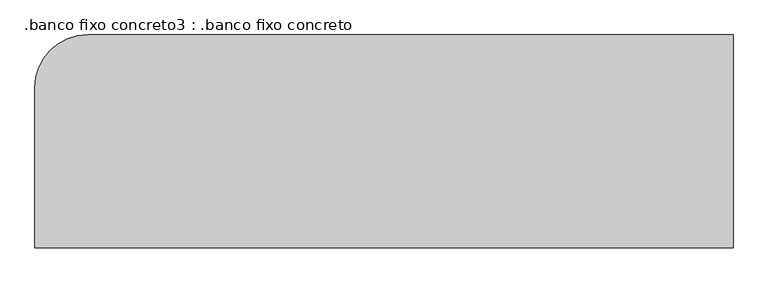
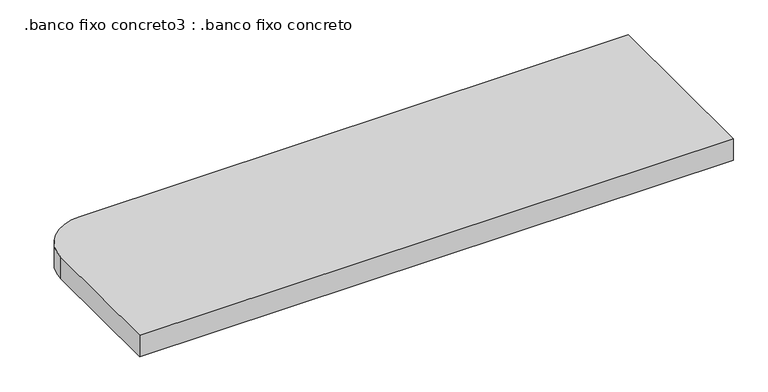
"""IFC4 building model written with IfcOpenShell, lengths in millimetres: proxy geometry, .banco fixo concreto3 : .banco fixo concreto."""

from ifc_helpers import new_model, si_unit, point, frame, frame_2d, origin, place, context, project, spatial, polyline, circle_curve, trimmed, segment, composite_curve, outline, extrude, source, transform, mapped, element, save


def banco_fixo_concreto3_banco_fixo_concreto_075806b6(model_context):
    return source(origin(), model_context, "Body", "SweptSolid", [
        extrude(outline(composite_curve([segment(polyline([(-2265.748145, -14618.4198092), (-3585.748145, -14618.4198092), (-3585.748145, -14315.5635244)]), True, "CONTINUOUS"), segment(trimmed(circle_curve(frame_2d((-3485.748145, -14315.5635244)), 100.0), [point((-3585.748145, -14315.5635244))], [point((-3485.748145, -14215.5635244))], False, "CARTESIAN"), True, "CONTINUOUS"), segment(polyline([(-3485.748145, -14215.5635244), (-2265.748145, -14215.5635244), (-2265.748145, -14618.4198092)]), True, "CONTINUOUS")], self_intersect=False)), frame((0.0, 0.0, 500.0), z_axis=(0.0, 0.0, 1.0), x_axis=(1.0, 0.0, 0.0)), (0.0, 0.0, 1.0), 50.0),
    ])


if __name__ == "__main__":
    model = new_model("IFC4")
    model_context = context("Model", 3, world=origin())
    ifc_project = project(units=[si_unit("LENGTHUNIT", "METRE", prefix="MILLI")], contexts=[model_context])
    site = spatial("IfcSite", under=ifc_project)
    building = spatial("IfcBuilding", under=site)
    placement = place(None, origin())
    banco_fixo_concreto3_banco_fixo_concreto_shape = banco_fixo_concreto3_banco_fixo_concreto_075806b6(model_context)
    element("IfcBuildingElementProxy", 1, Name=".banco fixo concreto3 : .banco fixo concreto", ObjectType=".banco fixo concreto3 : .banco fixo concreto", at=placement, inside=building, context=model_context, shape_type="MappedRepresentation", body=[
        mapped(banco_fixo_concreto3_banco_fixo_concreto_shape, transform((0.0, 0.0, 0.0), x_axis=(1.0, 0.0, 0.0), y_axis=(0.0, 1.0, 0.0), z_axis=(0.0, 0.0, 1.0))),
    ])
    save(model, "model.ifc")
